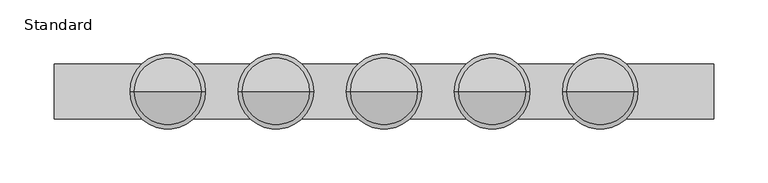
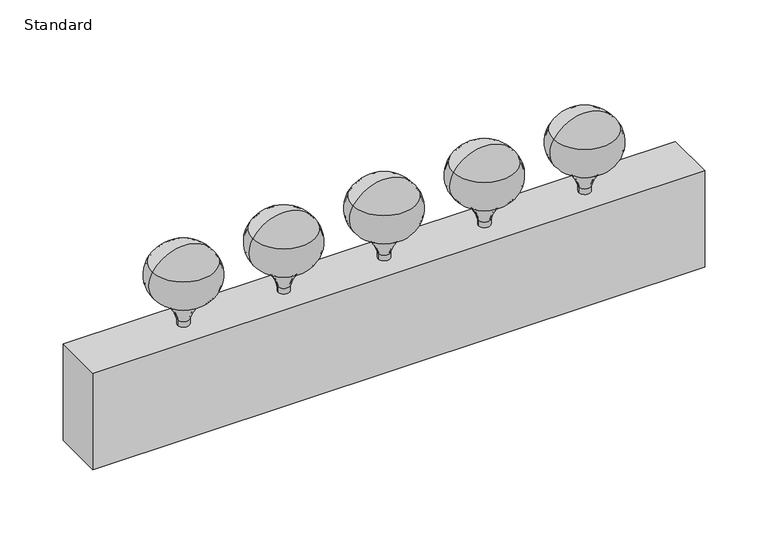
"""IFC4 building model written with IfcOpenShell, lengths in millimetres: light fixture geometry, Sconce Lamp - Cosmetic - LED : Standard."""

import ifcopenshell
import ifcopenshell.guid

model = None  # the IFC model being written
_history = None  # IfcOwnerHistory: only IFC2X3 demands one
_inside = {}  # id of a spatial element -> (the spatial element, [elements in it])
_under = {}  # id of a project, library or spatial element -> (it, [spatial elements below it])
_declared = {}  # id of a project -> (the project, [libraries it declares])
_typed = {}  # id of a type object -> (the type object, [elements of that type])
_made_of = {}  # id of a material, layer set ... -> (it, [elements and type objects made of it])


def new_model(schema):
    """Start an empty IFC model of exactly this schema.

    Asked for "IFC4X3", IfcOpenShell would pick the latest addendum, in which some entities
    have other attributes; the version numbers below select the first issue.
    IFC2X3 requires an IfcOwnerHistory on every rooted entity: one is made here for all.
    """
    global model, _history
    if schema == "IFC4X3":
        model = ifcopenshell.file(schema_version=(4, 3, 0, 0))
    else:
        model = ifcopenshell.file(schema=schema)
    _inside.clear()
    _under.clear()
    _declared.clear()
    _typed.clear()
    _made_of.clear()
    _history = None
    if model.schema == "IFC2X3":
        org = make("IfcOrganization", Name="unknown")
        user = make(
            "IfcPersonAndOrganization",
            ThePerson=make("IfcPerson", FamilyName="unknown"),
            TheOrganization=org,
        )
        app = make(
            "IfcApplication",
            ApplicationDeveloper=org,
            Version="unknown",
            ApplicationFullName="unknown",
            ApplicationIdentifier="unknown",
        )
        _history = make(
            "IfcOwnerHistory",
            OwningUser=user,
            OwningApplication=app,
            ChangeAction="ADDED",
            CreationDate=0,
        )
    return model


def make(cls, **values):
    """One entity of the class cls with the attributes given. An attribute that is None is left unset."""
    return model.create_entity(
        cls, **{name: value for name, value in values.items() if value is not None}
    )


def rooted(cls, **values):
    """An entity with a GlobalId (a new one), such as an element, a storey or a relation."""
    return make(cls, GlobalId=ifcopenshell.guid.new(), OwnerHistory=_history, **values)


def si_unit(unit_type, name, prefix=None):
    """IfcSIUnit, for example si_unit("LENGTHUNIT", "METRE", prefix="MILLI")."""
    return make("IfcSIUnit", UnitType=unit_type, Prefix=prefix, Name=name)


def assignment(units):
    """IfcUnitAssignment: the units of a project."""
    return None if units is None else make("IfcUnitAssignment", Units=units)


def point(xyz):
    """IfcCartesianPoint."""
    return None if xyz is None else make("IfcCartesianPoint", Coordinates=xyz)


def direction(xyz):
    """IfcDirection."""
    return None if xyz is None else make("IfcDirection", DirectionRatios=xyz)


def frame(location, z_axis=None, x_axis=None):
    """IfcAxis2Placement3D, a coordinate frame: its origin and axes. An axis left out is left unset."""
    return make(
        "IfcAxis2Placement3D",
        Location=point(location),
        Axis=direction(z_axis),
        RefDirection=direction(x_axis),
    )


def origin():
    """The frame at (0, 0, 0) with its axes left unset."""
    return frame((0.0, 0.0, 0.0))


def origin_with_axes():
    """The frame at (0, 0, 0) with the z axis (0, 0, 1) and the x axis (1, 0, 0) written out."""
    return frame((0.0, 0.0, 0.0), z_axis=(0.0, 0.0, 1.0), x_axis=(1.0, 0.0, 0.0))


def place(relative_to, where):
    """IfcLocalPlacement: puts the frame where relative to a parent placement (None: the world)."""
    return make(
        "IfcLocalPlacement", PlacementRelTo=relative_to, RelativePlacement=where
    )


def context(
    kind, dimensions, precision=None, world=None, true_north=None, identifier=None
):
    """IfcGeometricRepresentationContext, for example the 3D "Model" context."""
    return make(
        "IfcGeometricRepresentationContext",
        ContextIdentifier=identifier,
        ContextType=kind,
        CoordinateSpaceDimension=dimensions,
        Precision=precision,
        WorldCoordinateSystem=world,
        TrueNorth=true_north,
    )


def project(units=None, contexts=None):
    """IfcProject with its units and contexts."""
    return rooted(
        "IfcProject",
        Name="project",
        RepresentationContexts=contexts,
        UnitsInContext=assignment(units),
    )


def spatial(cls, under=None, at=None, **own):
    """A site, building, storey or space (cls), placed at a placement, below another one or the project."""
    s = rooted(cls, ObjectPlacement=at, **own)
    if under is not None:
        _under.setdefault(under.id(), (under, []))[1].append(s)
    return s


def polyline(points):
    """IfcPolyline through the points."""
    return make("IfcPolyline", Points=[point(p) for p in points])


def circle_curve(where, radius):
    """IfcCircle in the frame where."""
    return make("IfcCircle", Position=where, Radius=radius)


def ellipse_curve(where, semi_axis1, semi_axis2):
    """IfcEllipse in the frame where."""
    return make(
        "IfcEllipse", Position=where, SemiAxis1=semi_axis1, SemiAxis2=semi_axis2
    )


def trimmed(basis, trim1, trim2, sense, master):
    """IfcTrimmedCurve: the piece of a basis curve between two trims."""
    return make(
        "IfcTrimmedCurve",
        BasisCurve=basis,
        Trim1=trim1,
        Trim2=trim2,
        SenseAgreement=sense,
        MasterRepresentation=master,
    )


def outline(outer, holes=None, kind="AREA"):
    """IfcArbitraryClosedProfileDef: a profile drawn as a closed curve; with holes, ...WithVoids."""
    if holes is None:
        return make("IfcArbitraryClosedProfileDef", ProfileType=kind, OuterCurve=outer)
    return make(
        "IfcArbitraryProfileDefWithVoids",
        ProfileType=kind,
        OuterCurve=outer,
        InnerCurves=holes,
    )


def extrude(swept, where, along, depth):
    """IfcExtrudedAreaSolid: the profile swept, set in the frame where, extruded along a direction by depth."""
    return make(
        "IfcExtrudedAreaSolid",
        SweptArea=swept,
        Position=where,
        ExtrudedDirection=direction(along),
        Depth=depth,
    )


def shape(context_of_items, identifier, shape_type, items):
    """IfcShapeRepresentation: the items that make up one representation, for example the "Body"."""
    return make(
        "IfcShapeRepresentation",
        ContextOfItems=context_of_items,
        RepresentationIdentifier=identifier,
        RepresentationType=shape_type,
        Items=items,
    )


def source(mapping_origin, context_of_items, identifier, shape_type, items):
    """IfcRepresentationMap: a shape defined once, which mapped items show again and again."""
    return make(
        "IfcRepresentationMap",
        MappingOrigin=mapping_origin,
        MappedRepresentation=shape(context_of_items, identifier, shape_type, items),
    )


def transform(
    local_origin,
    x_axis=None,
    y_axis=None,
    z_axis=None,
    scale=None,
    scale2=None,
    scale3=None,
    uniform=True,
):
    """IfcCartesianTransformationOperator3D, or its non-uniform kind. x_axis, y_axis, z_axis: its Axis1, 2, 3."""
    if uniform:
        return make(
            "IfcCartesianTransformationOperator3D",
            Axis1=direction(x_axis),
            Axis2=direction(y_axis),
            LocalOrigin=point(local_origin),
            Scale=scale,
            Axis3=direction(z_axis),
        )
    return make(
        "IfcCartesianTransformationOperator3DnonUniform",
        Axis1=direction(x_axis),
        Axis2=direction(y_axis),
        LocalOrigin=point(local_origin),
        Scale=scale,
        Axis3=direction(z_axis),
        Scale2=scale2,
        Scale3=scale3,
    )


def mapped(mapping_source, mapping_target):
    """IfcMappedItem: shows the shape of a source again, moved by a transform."""
    return make(
        "IfcMappedItem", MappingSource=mapping_source, MappingTarget=mapping_target
    )


def made_of(thing, what):
    """Note that an element or type object is made of a material, layer set ...; save() writes the relation."""
    if what is not None:
        _made_of.setdefault(what.id(), (what, []))[1].append(thing)
    return thing


def element(
    cls,
    number,
    at=None,
    inside=None,
    cuts=None,
    type_object=None,
    material=None,
    context=None,
    identifier="Body",
    shape_type=None,
    held_by="IfcProductDefinitionShape",
    body=None,
    shapes=None,
    **own,
):
    """One element of the class cls, such as IfcWall. Its Tag is "e" and its number.

    at: its placement. inside: the storey or other place that contains it. cuts: it is an
    opening in that element (IfcRelVoidsElement). A single representation is given by context,
    identifier, shape_type and body (its items); several are given by shapes. held_by: the class
    of the entity that holds the representations. save() writes the other relations.
    """
    e = rooted(cls, Tag="e%d" % number, ObjectPlacement=at, **own)
    if body is not None:
        shapes = [shape(context, identifier, shape_type, body)]
    if shapes is not None:
        e.Representation = make(held_by, Representations=shapes)
    if inside is not None:
        _inside.setdefault(inside.id(), (inside, []))[1].append(e)
    if cuts is not None:
        rooted(
            "IfcRelVoidsElement", RelatingBuildingElement=cuts, RelatedOpeningElement=e
        )
    if type_object is not None:
        _typed.setdefault(type_object.id(), (type_object, []))[1].append(e)
    return made_of(e, material)


def aggregate(whole, parts):
    """IfcRelAggregates: a whole, such as a stair, and the parts it consists of."""
    return rooted("IfcRelAggregates", RelatingObject=whole, RelatedObjects=parts)


def save(model, path):
    """Write the relations noted so far, then the file.

    IfcRelAggregates (storeys below a building ...), IfcRelContainedInSpatialStructure (elements
    in a storey), IfcRelDefinesByType, IfcRelAssociatesMaterial and IfcRelDeclares: one each for
    every whole, place, type object, material and project.
    """
    for whole, parts in _under.values():
        aggregate(whole, parts)
    for where, things in _inside.values():
        rooted(
            "IfcRelContainedInSpatialStructure",
            RelatedElements=things,
            RelatingStructure=where,
        )
    for kind, things in _typed.values():
        rooted("IfcRelDefinesByType", RelatedObjects=things, RelatingType=kind)
    for what, things in _made_of.values():
        rooted("IfcRelAssociatesMaterial", RelatedObjects=things, RelatingMaterial=what)
    for by, libraries in _declared.values():
        rooted("IfcRelDeclares", RelatingContext=by, RelatedDefinitions=libraries)
    model.write(path)


def plane_surface(at):
    """IfcPlane: the flat surface through the origin of the frame at, square to its z axis."""
    return make("IfcPlane", Position=at)


def cylinder_surface(at, radius):
    """IfcCylindricalSurface: all points at the distance radius from the z axis of the frame at."""
    return make("IfcCylindricalSurface", Position=at, Radius=radius)


def revolved_surface(curve, axis_point, axis_direction):
    """IfcSurfaceOfRevolution: the curve turned about the line through axis_point along axis_direction."""
    return make(
        "IfcSurfaceOfRevolution",
        SweptCurve=make("IfcArbitraryOpenProfileDef", ProfileType="CURVE", Curve=curve),
        AxisPosition=make("IfcAxis1Placement", Location=point(axis_point), Axis=direction(axis_direction)),
    )


def advanced_brep(points, edges, surfaces, faces):
    """IfcAdvancedBrep: a solid bounded by faces that lie on surfaces and meet in shared edges.

    An edge is (start, end): straight between two places in points (the first is 0);
    or (start, end, curve); or (start, end, curve, False) where it runs against its curve.
    A face is (place in surfaces, loops), or (place, loops, False) where it looks against
    its surface's normal. A loop lists edges by number (the first is 1), with a minus sign
    where the edge is run from its end to its start. The first loop is the outer one.
    """
    corners = [point(p) for p in points]
    vertices = [make("IfcVertexPoint", VertexGeometry=c) for c in corners]
    made = []
    for start, end, *more in edges:
        made.append(
            make(
                "IfcEdgeCurve",
                EdgeStart=vertices[start],
                EdgeEnd=vertices[end],
                EdgeGeometry=more[0] if more else make("IfcPolyline", Points=[corners[start], corners[end]]),
                SameSense=more[1] if len(more) > 1 else True,
            )
        )
    hull = []
    for where, loops, *sense in faces:
        bounds = []
        for j, loop in enumerate(loops):
            ring = [make("IfcOrientedEdge", EdgeElement=made[abs(k) - 1], Orientation=k > 0) for k in loop]
            bounds.append(
                make(
                    "IfcFaceOuterBound" if j == 0 else "IfcFaceBound",
                    Bound=make("IfcEdgeLoop", EdgeList=ring),
                    Orientation=True,
                )
            )
        hull.append(make("IfcAdvancedFace", Bounds=bounds, FaceSurface=surfaces[where], SameSense=sense[0] if sense else True))
    return make("IfcAdvancedBrep", Outer=make("IfcClosedShell", CfsFaces=hull))


def standard_89f9745c(model_context):
    return source(origin(), model_context, "Body", "SolidModel", [
        extrude(outline(polyline([(304.8, 25.4), (304.8, -25.4), (-304.8, -25.4), (-304.8, 25.4), (304.8, 25.4)])), origin_with_axes(), (0.0, 0.0, 1.0), 101.6),
        advanced_brep(
        [(-199.8265625, 0.0, 184.1499311), (-168.9371071, 0.0, 167.1382009), (-230.7160179, 0.0, 167.1382009), (-232.204604, 0.0, 162.0288247), (-167.448521, 0.0, 162.0288247), (-199.8265625, 0.0, 183.2815308), (-176.9429198, 0.0, 131.7088882), (-222.7102052, 0.0, 131.7088882), (-222.2284537, 0.0, 132.4714861), (-177.4246713, 0.0, 132.4714861), (-204.5752257, 0.0, 107.9422137), (-195.0778993, 0.0, 107.9422137), (-193.9760208, 0.0, 107.9422137), (-205.6771042, 0.0, 107.9422137)],
        [
            (0, 1, circle_curve(frame((-199.8265625, 0.0, 147.599933), z_axis=(0.0, 1.0, 0.0), x_axis=(1.0, 0.0, 0.0)), 36.5499982)),
            (1, 2, circle_curve(frame((-199.8265625, 0.0, 167.1382009), z_axis=(0.0, 0.0, 1.0), x_axis=(1.0, 0.0, 0.0)), 30.8894554)),
            (2, 0, circle_curve(frame((-199.8265625, 0.0, 147.599933), z_axis=(0.0, 1.0, 0.0), x_axis=(-1.0, 0.0, 0.0)), 36.5499982)),
            (2, 1, circle_curve(frame((-199.8265625, 0.0, 167.1382009), z_axis=(0.0, 0.0, 1.0), x_axis=(1.0, 0.0, 0.0)), 30.8894554)),
            (3, 4, circle_curve(frame((-199.8265625, 0.0, 162.0288247), z_axis=(0.0, 0.0, -1.0), x_axis=(1.0, 0.0, 0.0)), 32.3780415)),
            (4, 5, circle_curve(frame((-198.7161869, 0.0, 149.6831855), z_axis=(0.0, -1.0, 0.0), x_axis=(1.0, 0.0, 0.0)), 33.6166884)),
            (5, 3, circle_curve(frame((-200.9369381, 0.0, 149.6831855), z_axis=(0.0, -1.0, 0.0), x_axis=(-1.0, 0.0, 0.0)), 33.6166884)),
            (4, 3, circle_curve(frame((-199.8265625, 0.0, 162.0288247), z_axis=(0.0, 0.0, -1.0), x_axis=(1.0, 0.0, 0.0)), 32.3780415)),
            (1, 6, circle_curve(frame((-190.625442, 0.0, 153.4198464), z_axis=(0.0, 1.0, 0.0), x_axis=(1.0, 0.0, 0.0)), 25.6627574)),
            (6, 7, circle_curve(frame((-199.8265625, 0.0, 131.7088882), z_axis=(0.0, 0.0, 1.0), x_axis=(1.0, 0.0, 0.0)), 22.8836427)),
            (7, 2, circle_curve(frame((-209.027683, 0.0, 153.4198464), z_axis=(0.0, 1.0, 0.0), x_axis=(-1.0, 0.0, 0.0)), 25.6627574)),
            (7, 6, circle_curve(frame((-199.8265625, 0.0, 131.7088882), z_axis=(0.0, 0.0, 1.0), x_axis=(1.0, 0.0, 0.0)), 22.8836427)),
            (8, 9, circle_curve(frame((-199.8265625, 0.0, 132.4714861), z_axis=(0.0, 0.0, -1.0), x_axis=(1.0, 0.0, 0.0)), 22.4018912)),
            (9, 4, circle_curve(frame((-189.9269898, 0.0, 153.1534879), z_axis=(0.0, -1.0, 0.0), x_axis=(1.0, 0.0, 0.0)), 24.167192)),
            (3, 8, circle_curve(frame((-209.7261352, 0.0, 153.1534879), z_axis=(0.0, -1.0, 0.0), x_axis=(-1.0, 0.0, 0.0)), 24.167192)),
            (9, 8, circle_curve(frame((-199.8265625, 0.0, 132.4714861), z_axis=(0.0, 0.0, -1.0), x_axis=(1.0, 0.0, 0.0)), 22.4018912)),
            (10, 11, circle_curve(frame((-199.8265625, 0.0, 107.9422137), z_axis=(0.0, 0.0, -1.0), x_axis=(1.0, 0.0, 0.0)), 4.7486632)),
            (11, 9, circle_curve(frame((-157.2788015, 0.0, 99.3559312), z_axis=(0.0, 1.0, 0.0), x_axis=(1.0, 0.0, 0.0)), 38.7620439)),
            (8, 10, circle_curve(frame((-242.3743235, 0.0, 99.3559312), z_axis=(0.0, 1.0, 0.0), x_axis=(-1.0, 0.0, 0.0)), 38.7620439)),
            (11, 10, circle_curve(frame((-199.8265625, 0.0, 107.9422137), z_axis=(0.0, 0.0, -1.0), x_axis=(1.0, 0.0, 0.0)), 4.7486632)),
            (6, 12, circle_curve(frame((-156.0398912, 0.0, 98.7411262), z_axis=(0.0, -1.0, 0.0), x_axis=(1.0, 0.0, 0.0)), 39.0360082)),
            (12, 13, circle_curve(frame((-199.8265625, 0.0, 107.9422137), z_axis=(0.0, 0.0, 1.0), x_axis=(1.0, 0.0, 0.0)), 5.8505417)),
            (13, 7, circle_curve(frame((-243.6132338, 0.0, 98.7411262), z_axis=(0.0, -1.0, 0.0), x_axis=(-1.0, 0.0, 0.0)), 39.0360082)),
            (13, 12, circle_curve(frame((-199.8265625, 0.0, 107.9422137), z_axis=(0.0, 0.0, 1.0), x_axis=(1.0, 0.0, 0.0)), 5.8505417)),
            (12, 11),
            (10, 13),
        ],
        [
            revolved_surface(trimmed(ellipse_curve(frame((-199.8265625, 0.0, 147.599933), z_axis=(0.0, -1.0, 0.0), x_axis=(1.0, 0.0, 0.0)), 36.5499982, 36.5499982), [point((-168.9371071, 0.0, 167.1382009))], [point((-199.8265625, 0.0, 184.1499311))], True, "CARTESIAN"), (-199.8265625, 0.0, 297.6243176), (0.0, 0.0, 1.0)),
            revolved_surface(trimmed(ellipse_curve(frame((-198.7161869, 0.0, 149.6831855), z_axis=(0.0, 1.0, 0.0), x_axis=(1.0, 0.0, 0.0)), 33.6166884, 33.6166884), [point((-199.8265625, 0.0, 183.2815308))], [point((-167.448521, 0.0, 162.0288247))], True, "CARTESIAN"), (-199.8265625, 0.0, 297.6243176), (0.0, 0.0, 1.0)),
            revolved_surface(trimmed(ellipse_curve(frame((-190.625442, 0.0, 153.4198464), z_axis=(0.0, -1.0, 0.0), x_axis=(1.0, 0.0, 0.0)), 25.6627574, 25.6627574), [point((-176.9429198, 0.0, 131.7088882))], [point((-168.9371072, 0.0, 167.1382008))], True, "CARTESIAN"), (-199.8265625, 0.0, 297.6243176), (0.0, 0.0, 1.0)),
            revolved_surface(trimmed(ellipse_curve(frame((-189.9269898, 0.0, 153.1534879), z_axis=(0.0, 1.0, 0.0), x_axis=(1.0, 0.0, 0.0)), 24.167192, 24.167192), [point((-167.4485209, 0.0, 162.0288248))], [point((-177.4246713, 0.0, 132.4714861))], True, "CARTESIAN"), (-199.8265625, 0.0, 297.6243176), (0.0, 0.0, 1.0)),
            revolved_surface(trimmed(ellipse_curve(frame((-157.2788015, 0.0, 99.3559312), z_axis=(0.0, -1.0, 0.0), x_axis=(1.0, 0.0, 0.0)), 38.7620439, 38.7620439), [point((-177.4246713, 0.0, 132.4714861))], [point((-195.0778993, 0.0, 107.9422137))], True, "CARTESIAN"), (-199.8265625, 0.0, 297.6243176), (0.0, 0.0, 1.0)),
            revolved_surface(trimmed(ellipse_curve(frame((-156.0398912, 0.0, 98.7411262), z_axis=(0.0, 1.0, 0.0), x_axis=(1.0, 0.0, 0.0)), 39.0360082, 39.0360082), [point((-193.9760208, 0.0, 107.9422137))], [point((-176.9429198, 0.0, 131.7088882))], True, "CARTESIAN"), (-199.8265625, 0.0, 297.6243176), (0.0, 0.0, 1.0)),
            plane_surface(frame((-199.8265625, 0.0, 107.9422137), z_axis=(0.0, 0.0, -1.0), x_axis=(1.0, 0.0, 0.0))),
        ],
        [
            (0, [[1, 2, 3]]),
            (0, [[-3, 4, -1]]),
            (1, [[5, 6, 7]]),
            (1, [[8, -7, -6]]),
            (2, [[-2, 9, 10, 11]]),
            (2, [[-4, -11, 12, -9]]),
            (3, [[13, 14, -5, 15]]),
            (3, [[16, -15, -8, -14]]),
            (4, [[17, 18, -13, 19]]),
            (4, [[20, -19, -16, -18]]),
            (5, [[-10, 21, 22, 23]]),
            (5, [[-12, -23, 24, -21]]),
            (6, [[-22, 25, -17, 26]]),
            (6, [[-24, -26, -20, -25]]),
        ],
    ),
        advanced_brep(
        [(-199.8265625, 0.0, 107.9422137), (-193.9903811, 0.0, 107.9422137), (-205.6627439, 0.0, 107.9422137), (-205.6627439, 0.0, 101.6), (-193.9903811, 0.0, 101.6), (-199.8265625, 0.0, 101.6)],
        [
            (0, 1),
            (1, 2, circle_curve(frame((-199.8265625, 0.0, 107.9422137), z_axis=(0.0, 0.0, 1.0), x_axis=(1.0, 0.0, 0.0)), 5.8361814)),
            (2, 0),
            (2, 1, circle_curve(frame((-199.8265625, 0.0, 107.9422137), z_axis=(0.0, 0.0, 1.0), x_axis=(1.0, 0.0, 0.0)), 5.8361814)),
            (3, 4, circle_curve(frame((-199.8265625, 0.0, 101.6), z_axis=(0.0, 0.0, -1.0), x_axis=(1.0, 0.0, 0.0)), 5.8361814)),
            (4, 5),
            (5, 3),
            (4, 3, circle_curve(frame((-199.8265625, 0.0, 101.6), z_axis=(0.0, 0.0, -1.0), x_axis=(1.0, 0.0, 0.0)), 5.8361814)),
            (1, 4),
            (3, 2),
        ],
        [
            plane_surface(frame((-199.8265625, 0.0, 107.9422137), z_axis=(0.0, 0.0, 1.0), x_axis=(1.0, 0.0, 0.0))),
            plane_surface(frame((-199.8265625, 0.0, 101.6), z_axis=(0.0, 0.0, -1.0), x_axis=(1.0, 0.0, 0.0))),
            cylinder_surface(frame((-199.8265625, 0.0, 321.7032089), z_axis=(0.0, 0.0, 1.0), x_axis=(1.0, 0.0, 0.0)), 5.8361814),
        ],
        [
            (0, [[1, 2, 3]]),
            (0, [[-3, 4, -1]]),
            (1, [[5, 6, 7]]),
            (1, [[8, -7, -6]]),
            (2, [[-2, 9, -5, 10]]),
            (2, [[-4, -10, -8, -9]]),
        ],
    ),
        advanced_brep(
        [(-99.9132813, 0.0, 184.1499311), (-69.0238259, 0.0, 167.1382009), (-130.8027366, 0.0, 167.1382009), (-132.2913228, 0.0, 162.0288247), (-67.5352397, 0.0, 162.0288247), (-99.9132813, 0.0, 183.2815308), (-77.0296386, 0.0, 131.7088882), (-122.7969239, 0.0, 131.7088882), (-122.3151724, 0.0, 132.4714861), (-77.5113901, 0.0, 132.4714861), (-104.6619444, 0.0, 107.9422137), (-95.1646181, 0.0, 107.9422137), (-94.0627395, 0.0, 107.9422137), (-105.763823, 0.0, 107.9422137)],
        [
            (0, 1, circle_curve(frame((-99.9132812, 0.0, 147.599933), z_axis=(0.0, 1.0, 0.0), x_axis=(1.0, 0.0, 0.0)), 36.5499982)),
            (1, 2, circle_curve(frame((-99.9132812, 0.0, 167.1382009), z_axis=(0.0, 0.0, 1.0), x_axis=(1.0, 0.0, 0.0)), 30.8894554)),
            (2, 0, circle_curve(frame((-99.9132812, 0.0, 147.599933), z_axis=(0.0, 1.0, 0.0), x_axis=(-1.0, 0.0, 0.0)), 36.5499982)),
            (2, 1, circle_curve(frame((-99.9132812, 0.0, 167.1382009), z_axis=(0.0, 0.0, 1.0), x_axis=(1.0, 0.0, 0.0)), 30.8894554)),
            (3, 4, circle_curve(frame((-99.9132812, 0.0, 162.0288247), z_axis=(0.0, 0.0, -1.0), x_axis=(1.0, 0.0, 0.0)), 32.3780415)),
            (4, 5, circle_curve(frame((-98.8029057, 0.0, 149.6831855), z_axis=(0.0, -1.0, 0.0), x_axis=(1.0, 0.0, 0.0)), 33.6166884)),
            (5, 3, circle_curve(frame((-101.0236568, 0.0, 149.6831855), z_axis=(0.0, -1.0, 0.0), x_axis=(-1.0, 0.0, 0.0)), 33.6166884)),
            (4, 3, circle_curve(frame((-99.9132812, 0.0, 162.0288247), z_axis=(0.0, 0.0, -1.0), x_axis=(1.0, 0.0, 0.0)), 32.3780415)),
            (1, 6, circle_curve(frame((-90.7121608, 0.0, 153.4198464), z_axis=(0.0, 1.0, 0.0), x_axis=(1.0, 0.0, 0.0)), 25.6627574)),
            (6, 7, circle_curve(frame((-99.9132812, 0.0, 131.7088882), z_axis=(0.0, 0.0, 1.0), x_axis=(1.0, 0.0, 0.0)), 22.8836427)),
            (7, 2, circle_curve(frame((-109.1144017, 0.0, 153.4198464), z_axis=(0.0, 1.0, 0.0), x_axis=(-1.0, 0.0, 0.0)), 25.6627574)),
            (7, 6, circle_curve(frame((-99.9132812, 0.0, 131.7088882), z_axis=(0.0, 0.0, 1.0), x_axis=(1.0, 0.0, 0.0)), 22.8836427)),
            (8, 9, circle_curve(frame((-99.9132812, 0.0, 132.4714861), z_axis=(0.0, 0.0, -1.0), x_axis=(1.0, 0.0, 0.0)), 22.4018912)),
            (9, 4, circle_curve(frame((-90.0137086, 0.0, 153.1534879), z_axis=(0.0, -1.0, 0.0), x_axis=(1.0, 0.0, 0.0)), 24.167192)),
            (3, 8, circle_curve(frame((-109.8128539, 0.0, 153.1534879), z_axis=(0.0, -1.0, 0.0), x_axis=(-1.0, 0.0, 0.0)), 24.167192)),
            (9, 8, circle_curve(frame((-99.9132812, 0.0, 132.4714861), z_axis=(0.0, 0.0, -1.0), x_axis=(1.0, 0.0, 0.0)), 22.4018912)),
            (10, 11, circle_curve(frame((-99.9132812, 0.0, 107.9422137), z_axis=(0.0, 0.0, -1.0), x_axis=(1.0, 0.0, 0.0)), 4.7486632)),
            (11, 9, circle_curve(frame((-57.3655202, 0.0, 99.3559312), z_axis=(0.0, 1.0, 0.0), x_axis=(1.0, 0.0, 0.0)), 38.7620439)),
            (8, 10, circle_curve(frame((-142.4610423, 0.0, 99.3559312), z_axis=(0.0, 1.0, 0.0), x_axis=(-1.0, 0.0, 0.0)), 38.7620439)),
            (11, 10, circle_curve(frame((-99.9132812, 0.0, 107.9422137), z_axis=(0.0, 0.0, -1.0), x_axis=(1.0, 0.0, 0.0)), 4.7486632)),
            (6, 12, circle_curve(frame((-56.12661, 0.0, 98.7411262), z_axis=(0.0, -1.0, 0.0), x_axis=(1.0, 0.0, 0.0)), 39.0360082)),
            (12, 13, circle_curve(frame((-99.9132812, 0.0, 107.9422137), z_axis=(0.0, 0.0, 1.0), x_axis=(1.0, 0.0, 0.0)), 5.8505417)),
            (13, 7, circle_curve(frame((-143.6999525, 0.0, 98.7411262), z_axis=(0.0, -1.0, 0.0), x_axis=(-1.0, 0.0, 0.0)), 39.0360082)),
            (13, 12, circle_curve(frame((-99.9132812, 0.0, 107.9422137), z_axis=(0.0, 0.0, 1.0), x_axis=(1.0, 0.0, 0.0)), 5.8505417)),
            (12, 11),
            (10, 13),
        ],
        [
            revolved_surface(trimmed(ellipse_curve(frame((-99.9132812, 0.0, 147.599933), z_axis=(0.0, -1.0, 0.0), x_axis=(1.0, 0.0, 0.0)), 36.5499982, 36.5499982), [point((-69.0238259, 0.0, 167.1382009))], [point((-99.9132813, 0.0, 184.1499311))], True, "CARTESIAN"), (-99.9132812, 0.0, 297.6243176), (0.0, 0.0, 1.0)),
            revolved_surface(trimmed(ellipse_curve(frame((-98.8029057, 0.0, 149.6831855), z_axis=(0.0, 1.0, 0.0), x_axis=(1.0, 0.0, 0.0)), 33.6166884, 33.6166884), [point((-99.9132813, 0.0, 183.2815308))], [point((-67.5352397, 0.0, 162.0288247))], True, "CARTESIAN"), (-99.9132812, 0.0, 297.6243176), (0.0, 0.0, 1.0)),
            revolved_surface(trimmed(ellipse_curve(frame((-90.7121608, 0.0, 153.4198464), z_axis=(0.0, -1.0, 0.0), x_axis=(1.0, 0.0, 0.0)), 25.6627574, 25.6627574), [point((-77.0296386, 0.0, 131.7088882))], [point((-69.0238259, 0.0, 167.1382008))], True, "CARTESIAN"), (-99.9132812, 0.0, 297.6243176), (0.0, 0.0, 1.0)),
            revolved_surface(trimmed(ellipse_curve(frame((-90.0137086, 0.0, 153.1534879), z_axis=(0.0, 1.0, 0.0), x_axis=(1.0, 0.0, 0.0)), 24.167192, 24.167192), [point((-67.5352397, 0.0, 162.0288248))], [point((-77.5113901, 0.0, 132.4714861))], True, "CARTESIAN"), (-99.9132812, 0.0, 297.6243176), (0.0, 0.0, 1.0)),
            revolved_surface(trimmed(ellipse_curve(frame((-57.3655202, 0.0, 99.3559312), z_axis=(0.0, -1.0, 0.0), x_axis=(1.0, 0.0, 0.0)), 38.7620439, 38.7620439), [point((-77.5113901, 0.0, 132.4714861))], [point((-95.1646181, 0.0, 107.9422137))], True, "CARTESIAN"), (-99.9132812, 0.0, 297.6243176), (0.0, 0.0, 1.0)),
            revolved_surface(trimmed(ellipse_curve(frame((-56.12661, 0.0, 98.7411262), z_axis=(0.0, 1.0, 0.0), x_axis=(1.0, 0.0, 0.0)), 39.0360082, 39.0360082), [point((-94.0627395, 0.0, 107.9422137))], [point((-77.0296386, 0.0, 131.7088882))], True, "CARTESIAN"), (-99.9132812, 0.0, 297.6243176), (0.0, 0.0, 1.0)),
            plane_surface(frame((-99.9132812, 0.0, 107.9422137), z_axis=(0.0, 0.0, -1.0), x_axis=(1.0, 0.0, 0.0))),
        ],
        [
            (0, [[1, 2, 3]]),
            (0, [[-3, 4, -1]]),
            (1, [[5, 6, 7]]),
            (1, [[8, -7, -6]]),
            (2, [[-2, 9, 10, 11]]),
            (2, [[-4, -11, 12, -9]]),
            (3, [[13, 14, -5, 15]]),
            (3, [[16, -15, -8, -14]]),
            (4, [[17, 18, -13, 19]]),
            (4, [[20, -19, -16, -18]]),
            (5, [[-10, 21, 22, 23]]),
            (5, [[-12, -23, 24, -21]]),
            (6, [[-22, 25, -17, 26]]),
            (6, [[-24, -26, -20, -25]]),
        ],
    ),
        advanced_brep(
        [(-99.9132812, 0.0, 107.9422137), (-94.0770998, 0.0, 107.9422137), (-105.7494627, 0.0, 107.9422137), (-105.7494627, 0.0, 101.6), (-94.0770998, 0.0, 101.6), (-99.9132812, 0.0, 101.6)],
        [
            (0, 1),
            (1, 2, circle_curve(frame((-99.9132812, 0.0, 107.9422137), z_axis=(0.0, 0.0, 1.0), x_axis=(1.0, 0.0, 0.0)), 5.8361814)),
            (2, 0),
            (2, 1, circle_curve(frame((-99.9132812, 0.0, 107.9422137), z_axis=(0.0, 0.0, 1.0), x_axis=(1.0, 0.0, 0.0)), 5.8361814)),
            (3, 4, circle_curve(frame((-99.9132812, 0.0, 101.6), z_axis=(0.0, 0.0, -1.0), x_axis=(1.0, 0.0, 0.0)), 5.8361814)),
            (4, 5),
            (5, 3),
            (4, 3, circle_curve(frame((-99.9132812, 0.0, 101.6), z_axis=(0.0, 0.0, -1.0), x_axis=(1.0, 0.0, 0.0)), 5.8361814)),
            (1, 4),
            (3, 2),
        ],
        [
            plane_surface(frame((-99.9132812, 0.0, 107.9422137), z_axis=(0.0, 0.0, 1.0), x_axis=(1.0, 0.0, 0.0))),
            plane_surface(frame((-99.9132812, 0.0, 101.6), z_axis=(0.0, 0.0, -1.0), x_axis=(1.0, 0.0, 0.0))),
            cylinder_surface(frame((-99.9132812, 0.0, 321.7032089), z_axis=(0.0, 0.0, 1.0), x_axis=(1.0, 0.0, 0.0)), 5.8361814),
        ],
        [
            (0, [[1, 2, 3]]),
            (0, [[-3, 4, -1]]),
            (1, [[5, 6, 7]]),
            (1, [[8, -7, -6]]),
            (2, [[-2, 9, -5, 10]]),
            (2, [[-4, -10, -8, -9]]),
        ],
    ),
        advanced_brep(
        [(0.0, 0.0, 184.1499311), (30.8894554, 0.0, 167.1382009), (-30.8894554, 0.0, 167.1382009), (-32.3780415, 0.0, 162.0288247), (32.3780415, 0.0, 162.0288247), (0.0, 0.0, 183.2815308), (22.8836427, 0.0, 131.7088882), (-22.8836427, 0.0, 131.7088882), (-22.4018912, 0.0, 132.4714861), (22.4018912, 0.0, 132.4714861), (-4.7486632, 0.0, 107.9422137), (4.7486632, 0.0, 107.9422137), (5.8505417, 0.0, 107.9422137), (-5.8505417, 0.0, 107.9422137)],
        [
            (0, 1, circle_curve(frame((0.0, 0.0, 147.599933), z_axis=(0.0, 1.0, 0.0), x_axis=(1.0, 0.0, 0.0)), 36.5499982)),
            (1, 2, circle_curve(frame((0.0, 0.0, 167.1382009), z_axis=(0.0, 0.0, 1.0), x_axis=(1.0, 0.0, 0.0)), 30.8894554)),
            (2, 0, circle_curve(frame((0.0, 0.0, 147.599933), z_axis=(0.0, 1.0, 0.0), x_axis=(-1.0, 0.0, 0.0)), 36.5499982)),
            (2, 1, circle_curve(frame((0.0, 0.0, 167.1382009), z_axis=(0.0, 0.0, 1.0), x_axis=(1.0, 0.0, 0.0)), 30.8894554)),
            (3, 4, circle_curve(frame((0.0, 0.0, 162.0288247), z_axis=(0.0, 0.0, -1.0), x_axis=(1.0, 0.0, 0.0)), 32.3780415)),
            (4, 5, circle_curve(frame((1.1103756, 0.0, 149.6831855), z_axis=(0.0, -1.0, 0.0), x_axis=(1.0, 0.0, 0.0)), 33.6166884)),
            (5, 3, circle_curve(frame((-1.1103756, 0.0, 149.6831855), z_axis=(0.0, -1.0, 0.0), x_axis=(-1.0, 0.0, 0.0)), 33.6166884)),
            (4, 3, circle_curve(frame((0.0, 0.0, 162.0288247), z_axis=(0.0, 0.0, -1.0), x_axis=(1.0, 0.0, 0.0)), 32.3780415)),
            (1, 6, circle_curve(frame((9.2011205, 0.0, 153.4198464), z_axis=(0.0, 1.0, 0.0), x_axis=(1.0, 0.0, 0.0)), 25.6627574)),
            (6, 7, circle_curve(frame((0.0, 0.0, 131.7088882), z_axis=(0.0, 0.0, 1.0), x_axis=(1.0, 0.0, 0.0)), 22.8836427)),
            (7, 2, circle_curve(frame((-9.2011205, 0.0, 153.4198464), z_axis=(0.0, 1.0, 0.0), x_axis=(-1.0, 0.0, 0.0)), 25.6627574)),
            (7, 6, circle_curve(frame((0.0, 0.0, 131.7088882), z_axis=(0.0, 0.0, 1.0), x_axis=(1.0, 0.0, 0.0)), 22.8836427)),
            (8, 9, circle_curve(frame((0.0, 0.0, 132.4714861), z_axis=(0.0, 0.0, -1.0), x_axis=(1.0, 0.0, 0.0)), 22.4018912)),
            (9, 4, circle_curve(frame((9.8995727, 0.0, 153.1534879), z_axis=(0.0, -1.0, 0.0), x_axis=(1.0, 0.0, 0.0)), 24.167192)),
            (3, 8, circle_curve(frame((-9.8995727, 0.0, 153.1534879), z_axis=(0.0, -1.0, 0.0), x_axis=(-1.0, 0.0, 0.0)), 24.167192)),
            (9, 8, circle_curve(frame((0.0, 0.0, 132.4714861), z_axis=(0.0, 0.0, -1.0), x_axis=(1.0, 0.0, 0.0)), 22.4018912)),
            (10, 11, circle_curve(frame((0.0, 0.0, 107.9422137), z_axis=(0.0, 0.0, -1.0), x_axis=(1.0, 0.0, 0.0)), 4.7486632)),
            (11, 9, circle_curve(frame((42.547761, 0.0, 99.3559312), z_axis=(0.0, 1.0, 0.0), x_axis=(1.0, 0.0, 0.0)), 38.7620439)),
            (8, 10, circle_curve(frame((-42.547761, 0.0, 99.3559312), z_axis=(0.0, 1.0, 0.0), x_axis=(-1.0, 0.0, 0.0)), 38.7620439)),
            (11, 10, circle_curve(frame((0.0, 0.0, 107.9422137), z_axis=(0.0, 0.0, -1.0), x_axis=(1.0, 0.0, 0.0)), 4.7486632)),
            (6, 12, circle_curve(frame((43.7866713, 0.0, 98.7411262), z_axis=(0.0, -1.0, 0.0), x_axis=(1.0, 0.0, 0.0)), 39.0360082)),
            (12, 13, circle_curve(frame((0.0, 0.0, 107.9422137), z_axis=(0.0, 0.0, 1.0), x_axis=(1.0, 0.0, 0.0)), 5.8505417)),
            (13, 7, circle_curve(frame((-43.7866713, 0.0, 98.7411262), z_axis=(0.0, -1.0, 0.0), x_axis=(-1.0, 0.0, 0.0)), 39.0360082)),
            (13, 12, circle_curve(frame((0.0, 0.0, 107.9422137), z_axis=(0.0, 0.0, 1.0), x_axis=(1.0, 0.0, 0.0)), 5.8505417)),
            (12, 11),
            (10, 13),
        ],
        [
            revolved_surface(trimmed(ellipse_curve(frame((0.0, 0.0, 147.599933), z_axis=(0.0, -1.0, 0.0), x_axis=(1.0, 0.0, 0.0)), 36.5499982, 36.5499982), [point((30.8894554, 0.0, 167.1382009))], [point((0.0, 0.0, 184.1499311))], True, "CARTESIAN"), (0.0, 0.0, 297.6243176), (0.0, 0.0, 1.0)),
            revolved_surface(trimmed(ellipse_curve(frame((1.1103756, 0.0, 149.6831855), z_axis=(0.0, 1.0, 0.0), x_axis=(1.0, 0.0, 0.0)), 33.6166884, 33.6166884), [point((0.0, 0.0, 183.2815308))], [point((32.3780415, 0.0, 162.0288247))], True, "CARTESIAN"), (0.0, 0.0, 297.6243176), (0.0, 0.0, 1.0)),
            revolved_surface(trimmed(ellipse_curve(frame((9.2011205, 0.0, 153.4198464), z_axis=(0.0, -1.0, 0.0), x_axis=(1.0, 0.0, 0.0)), 25.6627574, 25.6627574), [point((22.8836427, 0.0, 131.7088882))], [point((30.8894553, 0.0, 167.1382008))], True, "CARTESIAN"), (0.0, 0.0, 297.6243176), (0.0, 0.0, 1.0)),
            revolved_surface(trimmed(ellipse_curve(frame((9.8995727, 0.0, 153.1534879), z_axis=(0.0, 1.0, 0.0), x_axis=(1.0, 0.0, 0.0)), 24.167192, 24.167192), [point((32.3780416, 0.0, 162.0288248))], [point((22.4018912, 0.0, 132.4714861))], True, "CARTESIAN"), (0.0, 0.0, 297.6243176), (0.0, 0.0, 1.0)),
            revolved_surface(trimmed(ellipse_curve(frame((42.547761, 0.0, 99.3559312), z_axis=(0.0, -1.0, 0.0), x_axis=(1.0, 0.0, 0.0)), 38.7620439, 38.7620439), [point((22.4018912, 0.0, 132.4714861))], [point((4.7486632, 0.0, 107.9422137))], True, "CARTESIAN"), (0.0, 0.0, 297.6243176), (0.0, 0.0, 1.0)),
            revolved_surface(trimmed(ellipse_curve(frame((43.7866713, 0.0, 98.7411262), z_axis=(0.0, 1.0, 0.0), x_axis=(1.0, 0.0, 0.0)), 39.0360082, 39.0360082), [point((5.8505417, 0.0, 107.9422137))], [point((22.8836427, 0.0, 131.7088882))], True, "CARTESIAN"), (0.0, 0.0, 297.6243176), (0.0, 0.0, 1.0)),
            plane_surface(frame((0.0, 0.0, 107.9422137), z_axis=(0.0, 0.0, -1.0), x_axis=(1.0, 0.0, 0.0))),
        ],
        [
            (0, [[1, 2, 3]]),
            (0, [[-3, 4, -1]]),
            (1, [[5, 6, 7]]),
            (1, [[8, -7, -6]]),
            (2, [[-2, 9, 10, 11]]),
            (2, [[-4, -11, 12, -9]]),
            (3, [[13, 14, -5, 15]]),
            (3, [[16, -15, -8, -14]]),
            (4, [[17, 18, -13, 19]]),
            (4, [[20, -19, -16, -18]]),
            (5, [[-10, 21, 22, 23]]),
            (5, [[-12, -23, 24, -21]]),
            (6, [[-22, 25, -17, 26]]),
            (6, [[-24, -26, -20, -25]]),
        ],
    ),
        advanced_brep(
        [(0.0, 0.0, 107.9422137), (5.8361814, 0.0, 107.9422137), (-5.8361814, 0.0, 107.9422137), (-5.8361814, 0.0, 101.6), (5.8361814, 0.0, 101.6), (0.0, 0.0, 101.6)],
        [
            (0, 1),
            (1, 2, circle_curve(frame((0.0, 0.0, 107.9422137), z_axis=(0.0, 0.0, 1.0), x_axis=(1.0, 0.0, 0.0)), 5.8361814)),
            (2, 0),
            (2, 1, circle_curve(frame((0.0, 0.0, 107.9422137), z_axis=(0.0, 0.0, 1.0), x_axis=(1.0, 0.0, 0.0)), 5.8361814)),
            (3, 4, circle_curve(frame((0.0, 0.0, 101.6), z_axis=(0.0, 0.0, -1.0), x_axis=(1.0, 0.0, 0.0)), 5.8361814)),
            (4, 5),
            (5, 3),
            (4, 3, circle_curve(frame((0.0, 0.0, 101.6), z_axis=(0.0, 0.0, -1.0), x_axis=(1.0, 0.0, 0.0)), 5.8361814)),
            (1, 4),
            (3, 2),
        ],
        [
            plane_surface(frame((0.0, 0.0, 107.9422137), z_axis=(0.0, 0.0, 1.0), x_axis=(1.0, 0.0, 0.0))),
            plane_surface(frame((0.0, 0.0, 101.6), z_axis=(0.0, 0.0, -1.0), x_axis=(1.0, 0.0, 0.0))),
            cylinder_surface(frame((0.0, 0.0, 321.7032089), z_axis=(0.0, 0.0, 1.0), x_axis=(1.0, 0.0, 0.0)), 5.8361814),
        ],
        [
            (0, [[1, 2, 3]]),
            (0, [[-3, 4, -1]]),
            (1, [[5, 6, 7]]),
            (1, [[8, -7, -6]]),
            (2, [[-2, 9, -5, 10]]),
            (2, [[-4, -10, -8, -9]]),
        ],
    ),
        advanced_brep(
        [(99.9132812, 0.0, 184.1499311), (130.8027366, 0.0, 167.1382009), (69.0238259, 0.0, 167.1382009), (67.5352397, 0.0, 162.0288247), (132.2913228, 0.0, 162.0288247), (99.9132812, 0.0, 183.2815308), (122.7969239, 0.0, 131.7088882), (77.0296386, 0.0, 131.7088882), (77.5113901, 0.0, 132.4714861), (122.3151724, 0.0, 132.4714861), (95.1646181, 0.0, 107.9422137), (104.6619444, 0.0, 107.9422137), (105.763823, 0.0, 107.9422137), (94.0627395, 0.0, 107.9422137)],
        [
            (0, 1, circle_curve(frame((99.9132813, 0.0, 147.599933), z_axis=(0.0, 1.0, 0.0), x_axis=(1.0, 0.0, 0.0)), 36.5499982)),
            (1, 2, circle_curve(frame((99.9132813, 0.0, 167.1382009), z_axis=(0.0, 0.0, 1.0), x_axis=(1.0, 0.0, 0.0)), 30.8894554)),
            (2, 0, circle_curve(frame((99.9132813, 0.0, 147.599933), z_axis=(0.0, 1.0, 0.0), x_axis=(-1.0, 0.0, 0.0)), 36.5499982)),
            (2, 1, circle_curve(frame((99.9132813, 0.0, 167.1382009), z_axis=(0.0, 0.0, 1.0), x_axis=(1.0, 0.0, 0.0)), 30.8894554)),
            (3, 4, circle_curve(frame((99.9132813, 0.0, 162.0288247), z_axis=(0.0, 0.0, -1.0), x_axis=(1.0, 0.0, 0.0)), 32.3780415)),
            (4, 5, circle_curve(frame((101.0236568, 0.0, 149.6831855), z_axis=(0.0, -1.0, 0.0), x_axis=(1.0, 0.0, 0.0)), 33.6166884)),
            (5, 3, circle_curve(frame((98.8029057, 0.0, 149.6831855), z_axis=(0.0, -1.0, 0.0), x_axis=(-1.0, 0.0, 0.0)), 33.6166884)),
            (4, 3, circle_curve(frame((99.9132813, 0.0, 162.0288247), z_axis=(0.0, 0.0, -1.0), x_axis=(1.0, 0.0, 0.0)), 32.3780415)),
            (1, 6, circle_curve(frame((109.1144017, 0.0, 153.4198464), z_axis=(0.0, 1.0, 0.0), x_axis=(1.0, 0.0, 0.0)), 25.6627574)),
            (6, 7, circle_curve(frame((99.9132813, 0.0, 131.7088882), z_axis=(0.0, 0.0, 1.0), x_axis=(1.0, 0.0, 0.0)), 22.8836427)),
            (7, 2, circle_curve(frame((90.7121608, 0.0, 153.4198464), z_axis=(0.0, 1.0, 0.0), x_axis=(-1.0, 0.0, 0.0)), 25.6627574)),
            (7, 6, circle_curve(frame((99.9132813, 0.0, 131.7088882), z_axis=(0.0, 0.0, 1.0), x_axis=(1.0, 0.0, 0.0)), 22.8836427)),
            (8, 9, circle_curve(frame((99.9132813, 0.0, 132.4714861), z_axis=(0.0, 0.0, -1.0), x_axis=(1.0, 0.0, 0.0)), 22.4018912)),
            (9, 4, circle_curve(frame((109.8128539, 0.0, 153.1534879), z_axis=(0.0, -1.0, 0.0), x_axis=(1.0, 0.0, 0.0)), 24.167192)),
            (3, 8, circle_curve(frame((90.0137086, 0.0, 153.1534879), z_axis=(0.0, -1.0, 0.0), x_axis=(-1.0, 0.0, 0.0)), 24.167192)),
            (9, 8, circle_curve(frame((99.9132813, 0.0, 132.4714861), z_axis=(0.0, 0.0, -1.0), x_axis=(1.0, 0.0, 0.0)), 22.4018912)),
            (10, 11, circle_curve(frame((99.9132813, 0.0, 107.9422137), z_axis=(0.0, 0.0, -1.0), x_axis=(1.0, 0.0, 0.0)), 4.7486632)),
            (11, 9, circle_curve(frame((142.4610423, 0.0, 99.3559312), z_axis=(0.0, 1.0, 0.0), x_axis=(1.0, 0.0, 0.0)), 38.7620439)),
            (8, 10, circle_curve(frame((57.3655202, 0.0, 99.3559312), z_axis=(0.0, 1.0, 0.0), x_axis=(-1.0, 0.0, 0.0)), 38.7620439)),
            (11, 10, circle_curve(frame((99.9132813, 0.0, 107.9422137), z_axis=(0.0, 0.0, -1.0), x_axis=(1.0, 0.0, 0.0)), 4.7486632)),
            (6, 12, circle_curve(frame((143.6999525, 0.0, 98.7411262), z_axis=(0.0, -1.0, 0.0), x_axis=(1.0, 0.0, 0.0)), 39.0360082)),
            (12, 13, circle_curve(frame((99.9132813, 0.0, 107.9422137), z_axis=(0.0, 0.0, 1.0), x_axis=(1.0, 0.0, 0.0)), 5.8505417)),
            (13, 7, circle_curve(frame((56.12661, 0.0, 98.7411262), z_axis=(0.0, -1.0, 0.0), x_axis=(-1.0, 0.0, 0.0)), 39.0360082)),
            (13, 12, circle_curve(frame((99.9132813, 0.0, 107.9422137), z_axis=(0.0, 0.0, 1.0), x_axis=(1.0, 0.0, 0.0)), 5.8505417)),
            (12, 11),
            (10, 13),
        ],
        [
            revolved_surface(trimmed(ellipse_curve(frame((99.9132813, 0.0, 147.599933), z_axis=(0.0, -1.0, 0.0), x_axis=(1.0, 0.0, 0.0)), 36.5499982, 36.5499982), [point((130.8027366, 0.0, 167.1382009))], [point((99.9132812, 0.0, 184.1499311))], True, "CARTESIAN"), (99.9132813, 0.0, 297.6243176), (0.0, 0.0, 1.0)),
            revolved_surface(trimmed(ellipse_curve(frame((101.0236568, 0.0, 149.6831855), z_axis=(0.0, 1.0, 0.0), x_axis=(1.0, 0.0, 0.0)), 33.6166884, 33.6166884), [point((99.9132812, 0.0, 183.2815308))], [point((132.2913228, 0.0, 162.0288247))], True, "CARTESIAN"), (99.9132813, 0.0, 297.6243176), (0.0, 0.0, 1.0)),
            revolved_surface(trimmed(ellipse_curve(frame((109.1144017, 0.0, 153.4198464), z_axis=(0.0, -1.0, 0.0), x_axis=(1.0, 0.0, 0.0)), 25.6627574, 25.6627574), [point((122.7969239, 0.0, 131.7088882))], [point((130.8027366, 0.0, 167.1382008))], True, "CARTESIAN"), (99.9132813, 0.0, 297.6243176), (0.0, 0.0, 1.0)),
            revolved_surface(trimmed(ellipse_curve(frame((109.8128539, 0.0, 153.1534879), z_axis=(0.0, 1.0, 0.0), x_axis=(1.0, 0.0, 0.0)), 24.167192, 24.167192), [point((132.2913228, 0.0, 162.0288248))], [point((122.3151724, 0.0, 132.4714861))], True, "CARTESIAN"), (99.9132813, 0.0, 297.6243176), (0.0, 0.0, 1.0)),
            revolved_surface(trimmed(ellipse_curve(frame((142.4610423, 0.0, 99.3559312), z_axis=(0.0, -1.0, 0.0), x_axis=(1.0, 0.0, 0.0)), 38.7620439, 38.7620439), [point((122.3151724, 0.0, 132.4714861))], [point((104.6619444, 0.0, 107.9422137))], True, "CARTESIAN"), (99.9132813, 0.0, 297.6243176), (0.0, 0.0, 1.0)),
            revolved_surface(trimmed(ellipse_curve(frame((143.6999525, 0.0, 98.7411262), z_axis=(0.0, 1.0, 0.0), x_axis=(1.0, 0.0, 0.0)), 39.0360082, 39.0360082), [point((105.763823, 0.0, 107.9422137))], [point((122.7969239, 0.0, 131.7088882))], True, "CARTESIAN"), (99.9132813, 0.0, 297.6243176), (0.0, 0.0, 1.0)),
            plane_surface(frame((99.9132813, 0.0, 107.9422137), z_axis=(0.0, 0.0, -1.0), x_axis=(1.0, 0.0, 0.0))),
        ],
        [
            (0, [[1, 2, 3]]),
            (0, [[-3, 4, -1]]),
            (1, [[5, 6, 7]]),
            (1, [[8, -7, -6]]),
            (2, [[-2, 9, 10, 11]]),
            (2, [[-4, -11, 12, -9]]),
            (3, [[13, 14, -5, 15]]),
            (3, [[16, -15, -8, -14]]),
            (4, [[17, 18, -13, 19]]),
            (4, [[20, -19, -16, -18]]),
            (5, [[-10, 21, 22, 23]]),
            (5, [[-12, -23, 24, -21]]),
            (6, [[-22, 25, -17, 26]]),
            (6, [[-24, -26, -20, -25]]),
        ],
    ),
        advanced_brep(
        [(99.9132813, 0.0, 107.9422137), (105.7494627, 0.0, 107.9422137), (94.0770998, 0.0, 107.9422137), (94.0770998, 0.0, 101.6), (105.7494627, 0.0, 101.6), (99.9132813, 0.0, 101.6)],
        [
            (0, 1),
            (1, 2, circle_curve(frame((99.9132813, 0.0, 107.9422137), z_axis=(0.0, 0.0, 1.0), x_axis=(1.0, 0.0, 0.0)), 5.8361814)),
            (2, 0),
            (2, 1, circle_curve(frame((99.9132813, 0.0, 107.9422137), z_axis=(0.0, 0.0, 1.0), x_axis=(1.0, 0.0, 0.0)), 5.8361814)),
            (3, 4, circle_curve(frame((99.9132813, 0.0, 101.6), z_axis=(0.0, 0.0, -1.0), x_axis=(1.0, 0.0, 0.0)), 5.8361814)),
            (4, 5),
            (5, 3),
            (4, 3, circle_curve(frame((99.9132813, 0.0, 101.6), z_axis=(0.0, 0.0, -1.0), x_axis=(1.0, 0.0, 0.0)), 5.8361814)),
            (1, 4),
            (3, 2),
        ],
        [
            plane_surface(frame((99.9132813, 0.0, 107.9422137), z_axis=(0.0, 0.0, 1.0), x_axis=(1.0, 0.0, 0.0))),
            plane_surface(frame((99.9132813, 0.0, 101.6), z_axis=(0.0, 0.0, -1.0), x_axis=(1.0, 0.0, 0.0))),
            cylinder_surface(frame((99.9132813, 0.0, 321.7032089), z_axis=(0.0, 0.0, 1.0), x_axis=(1.0, 0.0, 0.0)), 5.8361814),
        ],
        [
            (0, [[1, 2, 3]]),
            (0, [[-3, 4, -1]]),
            (1, [[5, 6, 7]]),
            (1, [[8, -7, -6]]),
            (2, [[-2, 9, -5, 10]]),
            (2, [[-4, -10, -8, -9]]),
        ],
    ),
        advanced_brep(
        [(199.8265625, 0.0, 184.1499311), (230.7160179, 0.0, 167.1382009), (168.9371071, 0.0, 167.1382009), (167.448521, 0.0, 162.0288247), (232.204604, 0.0, 162.0288247), (199.8265625, 0.0, 183.2815308), (222.7102052, 0.0, 131.7088882), (176.9429198, 0.0, 131.7088882), (177.4246713, 0.0, 132.4714861), (222.2284537, 0.0, 132.4714861), (195.0778993, 0.0, 107.9422137), (204.5752257, 0.0, 107.9422137), (205.6771042, 0.0, 107.9422137), (193.9760208, 0.0, 107.9422137)],
        [
            (0, 1, circle_curve(frame((199.8265625, 0.0, 147.599933), z_axis=(0.0, 1.0, 0.0), x_axis=(1.0, 0.0, 0.0)), 36.5499982)),
            (1, 2, circle_curve(frame((199.8265625, 0.0, 167.1382009), z_axis=(0.0, 0.0, 1.0), x_axis=(1.0, 0.0, 0.0)), 30.8894554)),
            (2, 0, circle_curve(frame((199.8265625, 0.0, 147.599933), z_axis=(0.0, 1.0, 0.0), x_axis=(-1.0, 0.0, 0.0)), 36.5499982)),
            (2, 1, circle_curve(frame((199.8265625, 0.0, 167.1382009), z_axis=(0.0, 0.0, 1.0), x_axis=(1.0, 0.0, 0.0)), 30.8894554)),
            (3, 4, circle_curve(frame((199.8265625, 0.0, 162.0288247), z_axis=(0.0, 0.0, -1.0), x_axis=(1.0, 0.0, 0.0)), 32.3780415)),
            (4, 5, circle_curve(frame((200.9369381, 0.0, 149.6831855), z_axis=(0.0, -1.0, 0.0), x_axis=(1.0, 0.0, 0.0)), 33.6166884)),
            (5, 3, circle_curve(frame((198.7161869, 0.0, 149.6831855), z_axis=(0.0, -1.0, 0.0), x_axis=(-1.0, 0.0, 0.0)), 33.6166884)),
            (4, 3, circle_curve(frame((199.8265625, 0.0, 162.0288247), z_axis=(0.0, 0.0, -1.0), x_axis=(1.0, 0.0, 0.0)), 32.3780415)),
            (1, 6, circle_curve(frame((209.027683, 0.0, 153.4198464), z_axis=(0.0, 1.0, 0.0), x_axis=(1.0, 0.0, 0.0)), 25.6627574)),
            (6, 7, circle_curve(frame((199.8265625, 0.0, 131.7088882), z_axis=(0.0, 0.0, 1.0), x_axis=(1.0, 0.0, 0.0)), 22.8836427)),
            (7, 2, circle_curve(frame((190.625442, 0.0, 153.4198464), z_axis=(0.0, 1.0, 0.0), x_axis=(-1.0, 0.0, 0.0)), 25.6627574)),
            (7, 6, circle_curve(frame((199.8265625, 0.0, 131.7088882), z_axis=(0.0, 0.0, 1.0), x_axis=(1.0, 0.0, 0.0)), 22.8836427)),
            (8, 9, circle_curve(frame((199.8265625, 0.0, 132.4714861), z_axis=(0.0, 0.0, -1.0), x_axis=(1.0, 0.0, 0.0)), 22.4018912)),
            (9, 4, circle_curve(frame((209.7261352, 0.0, 153.1534879), z_axis=(0.0, -1.0, 0.0), x_axis=(1.0, 0.0, 0.0)), 24.167192)),
            (3, 8, circle_curve(frame((189.9269898, 0.0, 153.1534879), z_axis=(0.0, -1.0, 0.0), x_axis=(-1.0, 0.0, 0.0)), 24.167192)),
            (9, 8, circle_curve(frame((199.8265625, 0.0, 132.4714861), z_axis=(0.0, 0.0, -1.0), x_axis=(1.0, 0.0, 0.0)), 22.4018912)),
            (10, 11, circle_curve(frame((199.8265625, 0.0, 107.9422137), z_axis=(0.0, 0.0, -1.0), x_axis=(1.0, 0.0, 0.0)), 4.7486632)),
            (11, 9, circle_curve(frame((242.3743235, 0.0, 99.3559312), z_axis=(0.0, 1.0, 0.0), x_axis=(1.0, 0.0, 0.0)), 38.7620439)),
            (8, 10, circle_curve(frame((157.2788015, 0.0, 99.3559312), z_axis=(0.0, 1.0, 0.0), x_axis=(-1.0, 0.0, 0.0)), 38.7620439)),
            (11, 10, circle_curve(frame((199.8265625, 0.0, 107.9422137), z_axis=(0.0, 0.0, -1.0), x_axis=(1.0, 0.0, 0.0)), 4.7486632)),
            (6, 12, circle_curve(frame((243.6132338, 0.0, 98.7411262), z_axis=(0.0, -1.0, 0.0), x_axis=(1.0, 0.0, 0.0)), 39.0360082)),
            (12, 13, circle_curve(frame((199.8265625, 0.0, 107.9422137), z_axis=(0.0, 0.0, 1.0), x_axis=(1.0, 0.0, 0.0)), 5.8505417)),
            (13, 7, circle_curve(frame((156.0398912, 0.0, 98.7411262), z_axis=(0.0, -1.0, 0.0), x_axis=(-1.0, 0.0, 0.0)), 39.0360082)),
            (13, 12, circle_curve(frame((199.8265625, 0.0, 107.9422137), z_axis=(0.0, 0.0, 1.0), x_axis=(1.0, 0.0, 0.0)), 5.8505417)),
            (12, 11),
            (10, 13),
        ],
        [
            revolved_surface(trimmed(ellipse_curve(frame((199.8265625, 0.0, 147.599933), z_axis=(0.0, -1.0, 0.0), x_axis=(1.0, 0.0, 0.0)), 36.5499982, 36.5499982), [point((230.7160179, 0.0, 167.1382009))], [point((199.8265625, 0.0, 184.1499311))], True, "CARTESIAN"), (199.8265625, 0.0, 297.6243176), (0.0, 0.0, 1.0)),
            revolved_surface(trimmed(ellipse_curve(frame((200.9369381, 0.0, 149.6831855), z_axis=(0.0, 1.0, 0.0), x_axis=(1.0, 0.0, 0.0)), 33.6166884, 33.6166884), [point((199.8265625, 0.0, 183.2815308))], [point((232.204604, 0.0, 162.0288247))], True, "CARTESIAN"), (199.8265625, 0.0, 297.6243176), (0.0, 0.0, 1.0)),
            revolved_surface(trimmed(ellipse_curve(frame((209.027683, 0.0, 153.4198464), z_axis=(0.0, -1.0, 0.0), x_axis=(1.0, 0.0, 0.0)), 25.6627574, 25.6627574), [point((222.7102052, 0.0, 131.7088882))], [point((230.7160178, 0.0, 167.1382008))], True, "CARTESIAN"), (199.8265625, 0.0, 297.6243176), (0.0, 0.0, 1.0)),
            revolved_surface(trimmed(ellipse_curve(frame((209.7261352, 0.0, 153.1534879), z_axis=(0.0, 1.0, 0.0), x_axis=(1.0, 0.0, 0.0)), 24.167192, 24.167192), [point((232.2046041, 0.0, 162.0288248))], [point((222.2284537, 0.0, 132.4714861))], True, "CARTESIAN"), (199.8265625, 0.0, 297.6243176), (0.0, 0.0, 1.0)),
            revolved_surface(trimmed(ellipse_curve(frame((242.3743235, 0.0, 99.3559312), z_axis=(0.0, -1.0, 0.0), x_axis=(1.0, 0.0, 0.0)), 38.7620439, 38.7620439), [point((222.2284537, 0.0, 132.4714861))], [point((204.5752257, 0.0, 107.9422137))], True, "CARTESIAN"), (199.8265625, 0.0, 297.6243176), (0.0, 0.0, 1.0)),
            revolved_surface(trimmed(ellipse_curve(frame((243.6132338, 0.0, 98.7411262), z_axis=(0.0, 1.0, 0.0), x_axis=(1.0, 0.0, 0.0)), 39.0360082, 39.0360082), [point((205.6771042, 0.0, 107.9422137))], [point((222.7102052, 0.0, 131.7088882))], True, "CARTESIAN"), (199.8265625, 0.0, 297.6243176), (0.0, 0.0, 1.0)),
            plane_surface(frame((199.8265625, 0.0, 107.9422137), z_axis=(0.0, 0.0, -1.0), x_axis=(1.0, 0.0, 0.0))),
        ],
        [
            (0, [[1, 2, 3]]),
            (0, [[-3, 4, -1]]),
            (1, [[5, 6, 7]]),
            (1, [[8, -7, -6]]),
            (2, [[-2, 9, 10, 11]]),
            (2, [[-4, -11, 12, -9]]),
            (3, [[13, 14, -5, 15]]),
            (3, [[16, -15, -8, -14]]),
            (4, [[17, 18, -13, 19]]),
            (4, [[20, -19, -16, -18]]),
            (5, [[-10, 21, 22, 23]]),
            (5, [[-12, -23, 24, -21]]),
            (6, [[-22, 25, -17, 26]]),
            (6, [[-24, -26, -20, -25]]),
        ],
    ),
        advanced_brep(
        [(199.8265625, 0.0, 107.9422137), (205.6627439, 0.0, 107.9422137), (193.9903811, 0.0, 107.9422137), (193.9903811, 0.0, 101.6), (205.6627439, 0.0, 101.6), (199.8265625, 0.0, 101.6)],
        [
            (0, 1),
            (1, 2, circle_curve(frame((199.8265625, 0.0, 107.9422137), z_axis=(0.0, 0.0, 1.0), x_axis=(1.0, 0.0, 0.0)), 5.8361814)),
            (2, 0),
            (2, 1, circle_curve(frame((199.8265625, 0.0, 107.9422137), z_axis=(0.0, 0.0, 1.0), x_axis=(1.0, 0.0, 0.0)), 5.8361814)),
            (3, 4, circle_curve(frame((199.8265625, 0.0, 101.6), z_axis=(0.0, 0.0, -1.0), x_axis=(1.0, 0.0, 0.0)), 5.8361814)),
            (4, 5),
            (5, 3),
            (4, 3, circle_curve(frame((199.8265625, 0.0, 101.6), z_axis=(0.0, 0.0, -1.0), x_axis=(1.0, 0.0, 0.0)), 5.8361814)),
            (1, 4),
            (3, 2),
        ],
        [
            plane_surface(frame((199.8265625, 0.0, 107.9422137), z_axis=(0.0, 0.0, 1.0), x_axis=(1.0, 0.0, 0.0))),
            plane_surface(frame((199.8265625, 0.0, 101.6), z_axis=(0.0, 0.0, -1.0), x_axis=(1.0, 0.0, 0.0))),
            cylinder_surface(frame((199.8265625, 0.0, 321.7032089), z_axis=(0.0, 0.0, 1.0), x_axis=(1.0, 0.0, 0.0)), 5.8361814),
        ],
        [
            (0, [[1, 2, 3]]),
            (0, [[-3, 4, -1]]),
            (1, [[5, 6, 7]]),
            (1, [[8, -7, -6]]),
            (2, [[-2, 9, -5, 10]]),
            (2, [[-4, -10, -8, -9]]),
        ],
    ),
    ])


if __name__ == "__main__":
    model = new_model("IFC4")
    model_context = context("Model", 3, world=origin())
    ifc_project = project(units=[si_unit("LENGTHUNIT", "METRE", prefix="MILLI")], contexts=[model_context])
    site = spatial("IfcSite", under=ifc_project)
    building = spatial("IfcBuilding", under=site)
    placement = place(None, origin())
    standard_shape = standard_89f9745c(model_context)
    element("IfcLightFixture", 1, ObjectType="Sconce Lamp - Cosmetic - LED : Standard", at=placement, inside=building, context=model_context, shape_type="MappedRepresentation", body=[
        mapped(standard_shape, transform((0.0, 0.0, 0.0), x_axis=(1.0, 0.0, 0.0), y_axis=(0.0, 1.0, 0.0), z_axis=(0.0, 0.0, 1.0))),
    ])
    save(model, "model.ifc")
